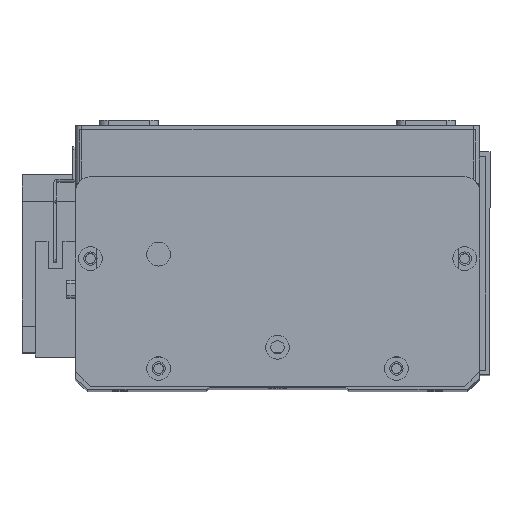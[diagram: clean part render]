
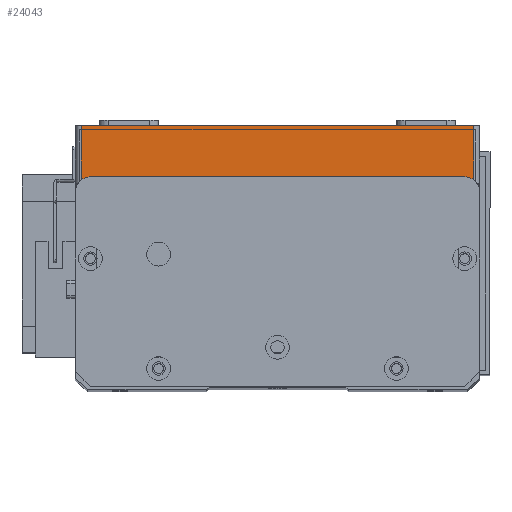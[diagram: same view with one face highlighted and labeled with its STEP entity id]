
A CAD part, top view. The second image highlights one B-rep face of the part: STEP entity #24043.
In plain terms, the highlighted planar face has unit normal (0, 0, 1) as drawn and (0, -1, 0) by its records, which use the part's own axes.
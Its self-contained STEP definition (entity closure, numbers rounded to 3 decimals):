
#309 = EDGE_CURVE ( 'NONE', #9430, #13317, #14525, .T. ) ;
#551 = CARTESIAN_POINT ( 'NONE',  ( 0., 0., 19.5 ) ) ;
#597 = VECTOR ( 'NONE', #14490, 1000. ) ;
#689 = EDGE_CURVE ( 'NONE', #1807, #13317, #24387, .T. ) ;
#749 = CARTESIAN_POINT ( 'NONE',  ( 134., 0., 0. ) ) ;
#1807 = VERTEX_POINT ( 'NONE', #19576 ) ;
#5067 = LINE ( 'NONE', #10268, #10991 ) ;
#5458 = CARTESIAN_POINT ( 'NONE',  ( 134., 0., 19.5 ) ) ;
#5460 = VERTEX_POINT ( 'NONE', #20894 ) ;
#5719 = ORIENTED_EDGE ( 'NONE', *, *, #689, .F. ) ;
#5925 = AXIS2_PLACEMENT_3D ( 'NONE', #551, #9349, #25193 ) ;
#7105 = PLANE ( 'NONE',  #5925 ) ;
#8230 = EDGE_LOOP ( 'NONE', ( #5719, #10914, #13097, #18800 ) ) ;
#8326 = DIRECTION ( 'NONE',  ( 1., 0., 0. ) ) ;
#8399 = CARTESIAN_POINT ( 'NONE',  ( 0., 0., 0. ) ) ;
#9349 = DIRECTION ( 'NONE',  ( 0., 1., 0. ) ) ;
#9430 = VERTEX_POINT ( 'NONE', #749 ) ;
#10268 = CARTESIAN_POINT ( 'NONE',  ( 2., 0., 19.5 ) ) ;
#10358 = DIRECTION ( 'NONE',  ( 0., 0., -1. ) ) ;
#10914 = ORIENTED_EDGE ( 'NONE', *, *, #13103, .T. ) ;
#10991 = VECTOR ( 'NONE', #10358, 1000. ) ;
#13097 = ORIENTED_EDGE ( 'NONE', *, *, #16727, .T. ) ;
#13103 = EDGE_CURVE ( 'NONE', #1807, #5460, #5067, .T. ) ;
#13317 = VERTEX_POINT ( 'NONE', #5458 ) ;
#14490 = DIRECTION ( 'NONE',  ( 1., 0., 0. ) ) ;
#14525 = LINE ( 'NONE', #27491, #25855 ) ;
#14621 = DIRECTION ( 'NONE',  ( 0., 0., 1. ) ) ;
#14760 = LINE ( 'NONE', #8399, #15460 ) ;
#15460 = VECTOR ( 'NONE', #8326, 1000. ) ;
#16727 = EDGE_CURVE ( 'NONE', #5460, #9430, #14760, .T. ) ;
#18800 = ORIENTED_EDGE ( 'NONE', *, *, #309, .T. ) ;
#19576 = CARTESIAN_POINT ( 'NONE',  ( 2., 0., 19.5 ) ) ;
#20894 = CARTESIAN_POINT ( 'NONE',  ( 2., 0., 0. ) ) ;
#21853 = CARTESIAN_POINT ( 'NONE',  ( 0., 0., 19.5 ) ) ;
#24043 = ADVANCED_FACE ( 'NONE', ( #27852 ), #7105, .F. ) ;
#24387 = LINE ( 'NONE', #21853, #597 ) ;
#25193 = DIRECTION ( 'NONE',  ( 0., 0., 1. ) ) ;
#25855 = VECTOR ( 'NONE', #14621, 1000. ) ;
#27491 = CARTESIAN_POINT ( 'NONE',  ( 134., 0., 19.5 ) ) ;
#27852 = FACE_OUTER_BOUND ( 'NONE', #8230, .T. ) ;
